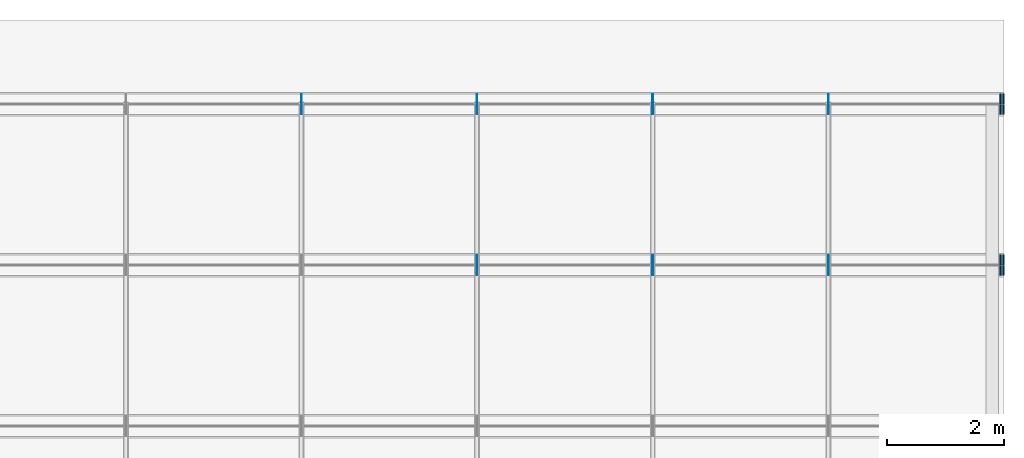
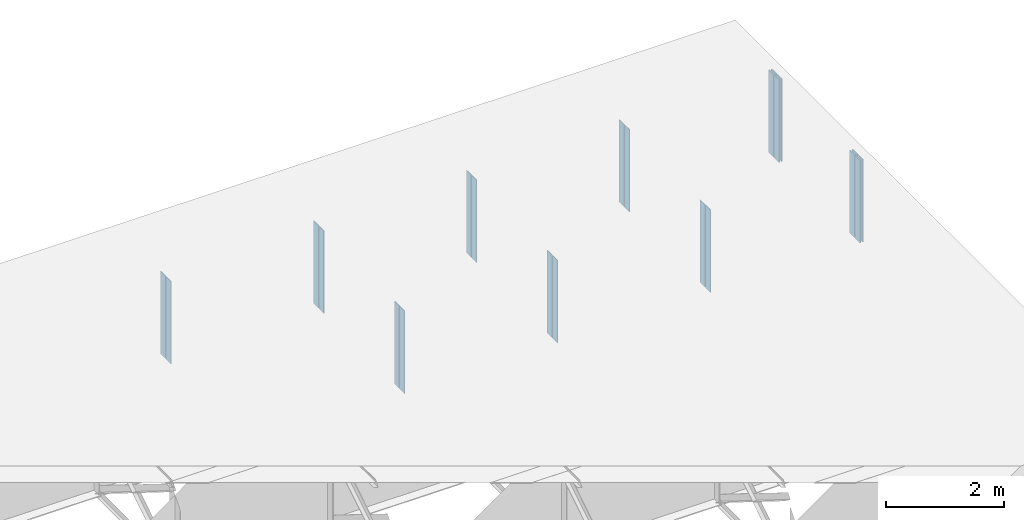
# One storey, part 17 of 17: 22 plates.
"""IFC4 building model written with IfcOpenShell, lengths in metres."""

from ifc_helpers import new_model, si_unit, frame, origin, origin_with_axes, origin_2d_with_axis, place, context, subcontext, project, spatial, rectangle, extrude, element, save


model = new_model("IFC4")

# Units and contexts
model_context = context("Model", 3, precision=1e-05, world=origin())
body_context = subcontext(model_context, "Body", "Model", "MODEL_VIEW")
ifc_project = project(units=[si_unit("LENGTHUNIT", "METRE"), si_unit("AREAUNIT", "SQUARE_METRE"), si_unit("VOLUMEUNIT", "CUBIC_METRE"), si_unit("PLANEANGLEUNIT", "RADIAN")], contexts=[model_context])

# Site, building, storey
site_placement = place(None, origin_with_axes())
site = spatial("IfcSite", under=ifc_project, at=site_placement, Name="Default Site")
building_placement = place(site_placement, origin_with_axes())
building = spatial("IfcBuilding", under=site, at=building_placement, Name="Bridge Structure")
storey_placement = place(building_placement, origin_with_axes())
storey = spatial("IfcBuildingStorey", under=building, at=storey_placement, Name="Superstructure")

# Plates
for number, where, z_axis, x_axis, name in (
    (1, (21.0, 2.841, -0.857), (0.0, 0.0, 1.0), (1.0, 0.0, 0.0), "Intermediate Stiffener 4"),
    (2, (21.0, 2.6590000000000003, -0.857), (0.0, 0.0, 1.0), (1.0, 0.0, 0.0), "Intermediate Stiffener 4"),
    (3, (24.0, 2.841, -0.857), (0.0, 0.0, 1.0), (1.0, 0.0, 0.0), "Intermediate Stiffener 4"),
    (4, (24.0, 2.6590000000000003, -0.857), (0.0, 0.0, 1.0), (1.0, 0.0, 0.0), "Intermediate Stiffener 4"),
    (5, (27.0, 2.841, -0.857), (0.0, 0.0, 1.0), (1.0, 0.0, 0.0), "Intermediate Stiffener 4"),
    (6, (27.0, 2.6590000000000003, -0.857), (0.0, 0.0, 1.0), (1.0, 0.0, 0.0), "Intermediate Stiffener 4"),
):
    element("IfcPlate", number, at=place(storey_placement, frame(where, z_axis=z_axis, x_axis=x_axis)), inside=storey, Name=name, context=body_context, shape_type="SweptSolid", body=[
        extrude(rectangle(XDim=0.012, YDim=0.168, at=origin_2d_with_axis()), origin_with_axes(), (0.0, 0.0, 1.0), 1.714),
    ])
for number, where, z_axis, x_axis, name in (
    (7, (29.990000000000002, 2.841, -0.857), (0.0, 0.0, 1.0), (1.0, 0.0, 0.0), "End Stiffener 4"),
    (8, (29.990000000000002, 2.6590000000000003, -0.857), (0.0, 0.0, 1.0), (1.0, 0.0, 0.0), "End Stiffener 4"),
    (9, (29.94, 2.841, -0.857), (0.0, 0.0, 1.0), (1.0, 0.0, 0.0), "End Stiffener 4"),
    (10, (29.94, 2.6590000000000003, -0.857), (0.0, 0.0, 1.0), (1.0, 0.0, 0.0), "End Stiffener 4"),
):
    element("IfcPlate", number, at=place(storey_placement, frame(where, z_axis=z_axis, x_axis=x_axis)), inside=storey, Name=name, context=body_context, shape_type="SweptSolid", body=[
        extrude(rectangle(XDim=0.02, YDim=0.168, at=origin_2d_with_axis()), origin_with_axes(), (0.0, 0.0, 1.0), 1.714),
    ])
for number, where, z_axis, x_axis, name in (
    (11, (18.0, 5.591, -0.857), (0.0, 0.0, 1.0), (1.0, 0.0, 0.0), "Intermediate Stiffener 5"),
    (12, (18.0, 5.409, -0.857), (0.0, 0.0, 1.0), (1.0, 0.0, 0.0), "Intermediate Stiffener 5"),
    (13, (21.0, 5.591, -0.857), (0.0, 0.0, 1.0), (1.0, 0.0, 0.0), "Intermediate Stiffener 5"),
    (14, (21.0, 5.409, -0.857), (0.0, 0.0, 1.0), (1.0, 0.0, 0.0), "Intermediate Stiffener 5"),
    (15, (24.0, 5.591, -0.857), (0.0, 0.0, 1.0), (1.0, 0.0, 0.0), "Intermediate Stiffener 5"),
    (16, (24.0, 5.409, -0.857), (0.0, 0.0, 1.0), (1.0, 0.0, 0.0), "Intermediate Stiffener 5"),
    (17, (27.0, 5.591, -0.857), (0.0, 0.0, 1.0), (1.0, 0.0, 0.0), "Intermediate Stiffener 5"),
    (18, (27.0, 5.409, -0.857), (0.0, 0.0, 1.0), (1.0, 0.0, 0.0), "Intermediate Stiffener 5"),
):
    element("IfcPlate", number, at=place(storey_placement, frame(where, z_axis=z_axis, x_axis=x_axis)), inside=storey, Name=name, context=body_context, shape_type="SweptSolid", body=[
        extrude(rectangle(XDim=0.012, YDim=0.168, at=origin_2d_with_axis()), origin_with_axes(), (0.0, 0.0, 1.0), 1.714),
    ])
for number, where, z_axis, x_axis, name in (
    (19, (29.990000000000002, 5.591, -0.857), (0.0, 0.0, 1.0), (1.0, 0.0, 0.0), "End Stiffener 5"),
    (20, (29.990000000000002, 5.409, -0.857), (0.0, 0.0, 1.0), (1.0, 0.0, 0.0), "End Stiffener 5"),
    (21, (29.94, 5.591, -0.857), (0.0, 0.0, 1.0), (1.0, 0.0, 0.0), "End Stiffener 5"),
    (22, (29.94, 5.409, -0.857), (0.0, 0.0, 1.0), (1.0, 0.0, 0.0), "End Stiffener 5"),
):
    element("IfcPlate", number, at=place(storey_placement, frame(where, z_axis=z_axis, x_axis=x_axis)), inside=storey, Name=name, context=body_context, shape_type="SweptSolid", body=[
        extrude(rectangle(XDim=0.02, YDim=0.168, at=origin_2d_with_axis()), origin_with_axes(), (0.0, 0.0, 1.0), 1.714),
    ])

save(model, "model.ifc")
